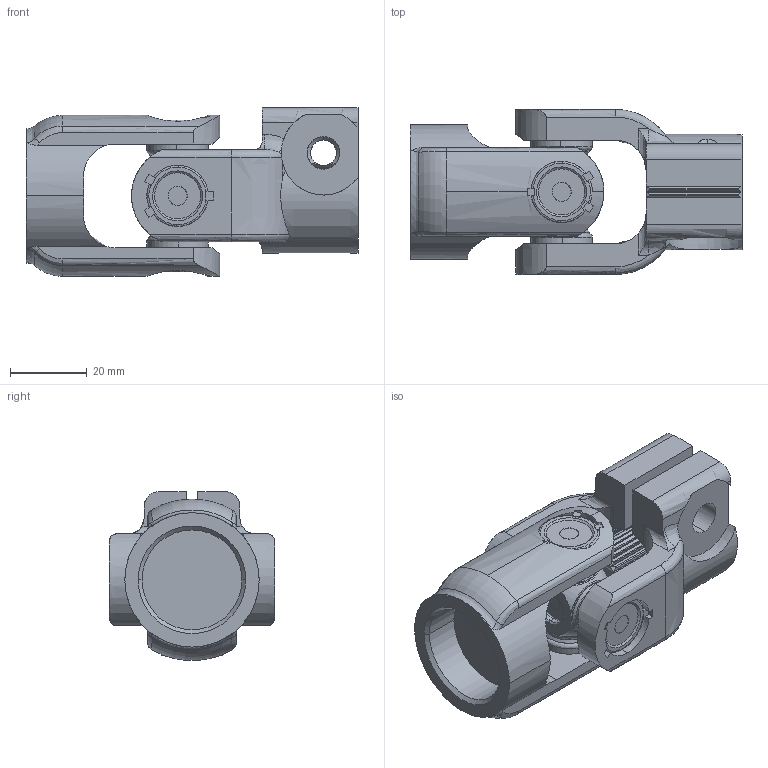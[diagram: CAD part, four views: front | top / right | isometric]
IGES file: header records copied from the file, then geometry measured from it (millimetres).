
Start section: START RECORD GO HERE.
Global section: file name: ZU20_UNIVERSAL JOINT 36T.igs; native system: DASSAULT SYSTEMES CATIA Version 5-6 Release 2017 - www.3ds.com; preprocessor: V5-6R2017_5.27.0.0.10-19-2016.20.00; author: kani; organization: ARJ-D3; date: 20211129.222304; units: millimetre
Bounding box: 86.5 x 43 x 44 mm (x, y, z)
Volume: 55246.3 mm3; surface area: 31793.4 mm2
Topology: 83 solids, 83 shells, 1266 faces, 2761 edges, 2031 vertices
Faces by surface type: revolution 892, plane 363, bspline 11
